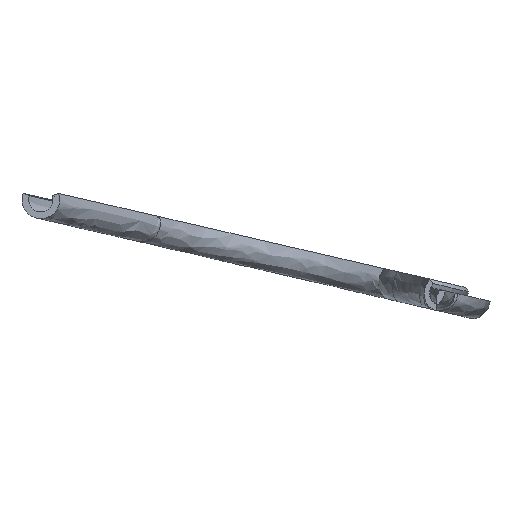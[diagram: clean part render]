
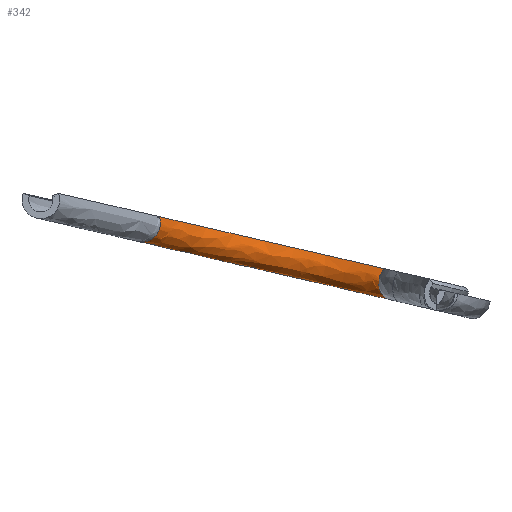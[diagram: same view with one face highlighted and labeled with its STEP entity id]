
A CAD part, left-side view. The second image highlights one B-rep face of the part: STEP entity #342.
In plain terms, the highlighted free-form (B-spline) face has degree [3, 3] with [15, 4] control points.
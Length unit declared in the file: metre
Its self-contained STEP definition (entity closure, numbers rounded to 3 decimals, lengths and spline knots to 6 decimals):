
#31=(
BOUNDED_SURFACE()
B_SPLINE_SURFACE(3,3,((#959,#960,#961,#962),(#963,#964,#965,#966),(#967,
#968,#969,#970),(#971,#972,#973,#974),(#975,#976,#977,#978),(#979,#980,
#981,#982),(#983,#984,#985,#986),(#987,#988,#989,#990),(#991,#992,#993,
#994),(#995,#996,#997,#998),(#999,#1000,#1001,#1002),(#1003,#1004,#1005,
#1006),(#1007,#1008,#1009,#1010),(#1011,#1012,#1013,#1014),(#1015,#1016,
#1017,#1018)),.SURF_OF_REVOLUTION.,.F.,.F.,.F.)
B_SPLINE_SURFACE_WITH_KNOTS((4,1,1,1,1,1,1,1,1,1,1,1,4),(4,4),(0.,0.125,
0.25,0.3125,0.375,0.4375,0.5,0.5625,
0.625,0.6875,0.75,0.875,
1.),(0.,1.),.UNSPECIFIED.)
GEOMETRIC_REPRESENTATION_ITEM()
RATIONAL_B_SPLINE_SURFACE(((1.,0.747,0.747,1.),
(1.,0.747,0.747,1.),(1.,0.747,0.747,
1.),(1.,0.747,0.747,1.),(1.,0.747,0.747,
1.),(1.,0.747,0.747,1.),(1.,0.747,0.747,
1.),(1.,0.747,0.747,1.),(1.,0.747,0.747,
1.),(1.,0.747,0.747,1.),(1.,0.747,0.747,
1.),(1.,0.747,0.747,1.),(1.,0.747,0.747,
1.),(1.,0.747,0.747,1.),(1.,0.747,0.747,
1.)))
REPRESENTATION_ITEM('')
SURFACE()
);
#125=ORIENTED_EDGE('',*,*,#195,.F.);
#126=ORIENTED_EDGE('',*,*,#202,.F.);
#127=ORIENTED_EDGE('',*,*,#203,.T.);
#128=ORIENTED_EDGE('',*,*,#204,.T.);
#195=EDGE_CURVE('',#235,#236,#262,.T.);
#202=EDGE_CURVE('',#239,#235,#267,.T.);
#203=EDGE_CURVE('',#239,#240,#268,.T.);
#204=EDGE_CURVE('',#240,#236,#269,.T.);
#235=VERTEX_POINT('',#880);
#236=VERTEX_POINT('',#882);
#239=VERTEX_POINT('',#1020);
#240=VERTEX_POINT('',#1022);
#262=CIRCLE('',#382,0.007);
#267=CIRCLE('',#387,0.071344);
#268=CIRCLE('',#388,0.007);
#269=CIRCLE('',#389,0.081428);
#288=EDGE_LOOP('',(#125,#126,#127,#128));
#312=FACE_BOUND('',#288,.T.);
#342=ADVANCED_FACE('',(#312),#31,.F.);
#382=AXIS2_PLACEMENT_3D('',#881,#440,#441);
#387=AXIS2_PLACEMENT_3D('',#1019,#452,#453);
#388=AXIS2_PLACEMENT_3D('',#1021,#454,#455);
#389=AXIS2_PLACEMENT_3D('',#1023,#456,#457);
#440=DIRECTION('',(-0.23,-0.948,-0.219));
#441=DIRECTION('',(-0.816,0.065,0.574));
#452=DIRECTION('',(0.,0.225,-0.974));
#453=DIRECTION('',(0.659,0.733,0.169));
#454=DIRECTION('',(1.,0.,0.));
#455=DIRECTION('',(0.,-0.94,0.342));
#456=DIRECTION('',(0.,0.225,-0.974));
#457=DIRECTION('',(0.577,0.796,0.184));
#880=CARTESIAN_POINT('',(0.050005,-0.140871,0.019189));
#881=CARTESIAN_POINT('',(0.055718,-0.141329,0.01517));
#882=CARTESIAN_POINT('',(0.06248,-0.143078,0.015642));
#959=CARTESIAN_POINT('',(0.050005,-0.140871,0.019189));
#960=CARTESIAN_POINT('',(0.090654,-0.112614,0.025712));
#961=CARTESIAN_POINT('',(0.093133,-0.06402,0.036931));
#962=CARTESIAN_POINT('',(0.055561,-0.031974,0.044329));
#963=CARTESIAN_POINT('',(0.049498,-0.140574,0.018434));
#964=CARTESIAN_POINT('',(0.090064,-0.112662,0.024878));
#965=CARTESIAN_POINT('',(0.092769,-0.064347,0.036033));
#966=CARTESIAN_POINT('',(0.055561,-0.032301,0.043431));
#967=CARTESIAN_POINT('',(0.048688,-0.139934,0.016511));
#968=CARTESIAN_POINT('',(0.089119,-0.112574,0.022827));
#969=CARTESIAN_POINT('',(0.092186,-0.064704,0.033879));
#970=CARTESIAN_POINT('',(0.055561,-0.032658,0.041277));
#971=CARTESIAN_POINT('',(0.049031,-0.139313,0.013461));
#972=CARTESIAN_POINT('',(0.089519,-0.11172,0.019831));
#973=CARTESIAN_POINT('',(0.092433,-0.063661,0.030926));
#974=CARTESIAN_POINT('',(0.055561,-0.031615,0.038325));
#975=CARTESIAN_POINT('',(0.050212,-0.139105,0.011321));
#976=CARTESIAN_POINT('',(0.090896,-0.110706,0.017877));
#977=CARTESIAN_POINT('',(0.093282,-0.061999,0.029122));
#978=CARTESIAN_POINT('',(0.055561,-0.029953,0.03652));
#979=CARTESIAN_POINT('',(0.051417,-0.139097,0.01002));
#980=CARTESIAN_POINT('',(0.0923,-0.109877,0.016766));
#981=CARTESIAN_POINT('',(0.094149,-0.060507,0.028164));
#982=CARTESIAN_POINT('',(0.055561,-0.028461,0.035563));
#983=CARTESIAN_POINT('',(0.052805,-0.13922,0.009097));
#984=CARTESIAN_POINT('',(0.093917,-0.109054,0.016061));
#985=CARTESIAN_POINT('',(0.095147,-0.058921,0.027635));
#986=CARTESIAN_POINT('',(0.055561,-0.026875,0.035033));
#987=CARTESIAN_POINT('',(0.054175,-0.139429,0.00856));
#988=CARTESIAN_POINT('',(0.095514,-0.108328,0.01574));
#989=CARTESIAN_POINT('',(0.096132,-0.057442,0.027488));
#990=CARTESIAN_POINT('',(0.055561,-0.025396,0.034886));
#991=CARTESIAN_POINT('',(0.05561,-0.139717,0.008299));
#992=CARTESIAN_POINT('',(0.097186,-0.107637,0.015705));
#993=CARTESIAN_POINT('',(0.097164,-0.055963,0.027635));
#994=CARTESIAN_POINT('',(0.055561,-0.023917,0.035033));
#995=CARTESIAN_POINT('',(0.057229,-0.140125,0.008368));
#996=CARTESIAN_POINT('',(0.099073,-0.106942,0.016029));
#997=CARTESIAN_POINT('',(0.098329,-0.054378,0.028164));
#998=CARTESIAN_POINT('',(0.055561,-0.022332,0.035563));
#999=CARTESIAN_POINT('',(0.058853,-0.140634,0.008864));
#1000=CARTESIAN_POINT('',(0.100966,-0.106342,0.016781));
#1001=CARTESIAN_POINT('',(0.099497,-0.052886,0.029122));
#1002=CARTESIAN_POINT('',(0.055561,-0.02084,0.03652));
#1003=CARTESIAN_POINT('',(0.060825,-0.141399,0.010108));
#1004=CARTESIAN_POINT('',(0.103263,-0.105763,0.018335));
#1005=CARTESIAN_POINT('',(0.100914,-0.051224,0.030926));
#1006=CARTESIAN_POINT('',(0.055561,-0.019178,0.038325));
#1007=CARTESIAN_POINT('',(0.06246,-0.14237,0.012595));
#1008=CARTESIAN_POINT('',(0.105169,-0.105619,0.02108));
#1009=CARTESIAN_POINT('',(0.102091,-0.050181,0.033879));
#1010=CARTESIAN_POINT('',(0.055561,-0.018135,0.041277));
#1011=CARTESIAN_POINT('',(0.062593,-0.142891,0.014711));
#1012=CARTESIAN_POINT('',(0.105324,-0.106049,0.023217));
#1013=CARTESIAN_POINT('',(0.102186,-0.050538,0.036033));
#1014=CARTESIAN_POINT('',(0.055561,-0.018492,0.043431));
#1015=CARTESIAN_POINT('',(0.06248,-0.143078,0.015642));
#1016=CARTESIAN_POINT('',(0.105192,-0.106314,0.02413));
#1017=CARTESIAN_POINT('',(0.102105,-0.050865,0.036931));
#1018=CARTESIAN_POINT('',(0.055561,-0.018818,0.044329));
#1019=CARTESIAN_POINT('',(0.00857,-0.084281,0.032253));
#1020=CARTESIAN_POINT('',(0.055561,-0.031974,0.044329));
#1021=CARTESIAN_POINT('',(0.055561,-0.025396,0.041935));
#1022=CARTESIAN_POINT('',(0.055561,-0.018818,0.044329));
#1023=CARTESIAN_POINT('',(0.00857,-0.083615,0.02937));
